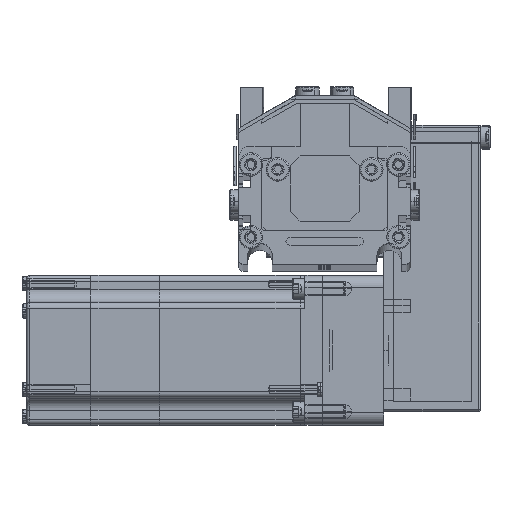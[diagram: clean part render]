
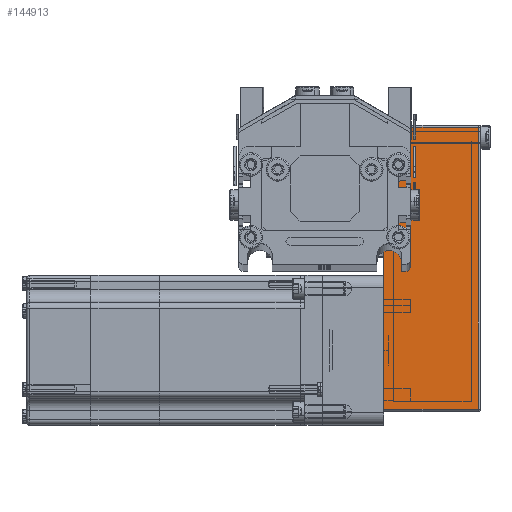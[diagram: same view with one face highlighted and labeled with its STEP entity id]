
A CAD part, top view. The second image highlights one B-rep face of the part: STEP entity #144913.
In plain terms, the highlighted planar face has unit normal (0, 0, 1) as drawn and (0, -1, 0) by its records, which use the part's own axes.
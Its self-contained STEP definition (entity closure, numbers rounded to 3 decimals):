
#37138 = DIRECTION ( 'NONE',  ( 1., 0., 0. ) ) ;
#37139 = VECTOR ( 'NONE', #37138, 1000. ) ;
#37140 = CARTESIAN_POINT ( 'NONE',  ( -50., -25., 0. ) ) ;
#37142 = LINE ( 'NONE', #37140, #37139 ) ;
#37155 = CARTESIAN_POINT ( 'NONE',  ( -49., -25., 0. ) ) ;
#37253 = CARTESIAN_POINT ( 'NONE',  ( 65.5, -25., 0. ) ) ;
#37444 = FACE_OUTER_BOUND ( 'NONE', #144610, .T. ) ;
#37546 = CARTESIAN_POINT ( 'NONE',  ( -49., -25., 38.5 ) ) ;
#37710 = DIRECTION ( 'NONE',  ( 0., 0., 1. ) ) ;
#37713 = AXIS2_PLACEMENT_3D ( 'NONE', #37722, #37714, #37710 ) ;
#37714 = DIRECTION ( 'NONE',  ( 0., 1., 0. ) ) ;
#37715 = PLANE ( 'NONE',  #37713 ) ;
#37722 = CARTESIAN_POINT ( 'NONE',  ( -50., -25., 39.5 ) ) ;
#37771 = CARTESIAN_POINT ( 'NONE',  ( 65.5, -25., 38.5 ) ) ;
#37778 = DIRECTION ( 'NONE',  ( 0., 0., -1. ) ) ;
#37779 = CARTESIAN_POINT ( 'NONE',  ( -49., -25., 39.5 ) ) ;
#37783 = LINE ( 'NONE', #37779, #37844 ) ;
#37835 = DIRECTION ( 'NONE',  ( -1., 0., 0. ) ) ;
#37836 = VECTOR ( 'NONE', #37835, 1000. ) ;
#37837 = CARTESIAN_POINT ( 'NONE',  ( -50., -25., 38.5 ) ) ;
#37838 = LINE ( 'NONE', #37837, #37836 ) ;
#37844 = VECTOR ( 'NONE', #37778, 1000. ) ;
#38010 = DIRECTION ( 'NONE',  ( 0., 0., 1. ) ) ;
#38011 = VECTOR ( 'NONE', #38010, 1000. ) ;
#38027 = CARTESIAN_POINT ( 'NONE',  ( 65.5, -25., 39.5 ) ) ;
#38030 = LINE ( 'NONE', #38027, #38011 ) ;
#144220 = EDGE_CURVE ( 'NONE', #144231, #144430, #37142, .T. ) ;
#144231 = VERTEX_POINT ( 'NONE', #37155 ) ;
#144430 = VERTEX_POINT ( 'NONE', #37253 ) ;
#144610 = EDGE_LOOP ( 'NONE', ( #145242, #144855, #145005, #145029 ) ) ;
#144855 = ORIENTED_EDGE ( 'NONE', *, *, #144996, .T. ) ;
#144874 = VERTEX_POINT ( 'NONE', #37546 ) ;
#144913 = ADVANCED_FACE ( 'NONE', ( #37444 ), #37715, .F. ) ;
#144937 = VERTEX_POINT ( 'NONE', #37771 ) ;
#144996 = EDGE_CURVE ( 'NONE', #144874, #144231, #37783, .T. ) ;
#145003 = EDGE_CURVE ( 'NONE', #144937, #144874, #37838, .T. ) ;
#145005 = ORIENTED_EDGE ( 'NONE', *, *, #144220, .T. ) ;
#145029 = ORIENTED_EDGE ( 'NONE', *, *, #145099, .T. ) ;
#145099 = EDGE_CURVE ( 'NONE', #144430, #144937, #38030, .T. ) ;
#145242 = ORIENTED_EDGE ( 'NONE', *, *, #145003, .T. ) ;
